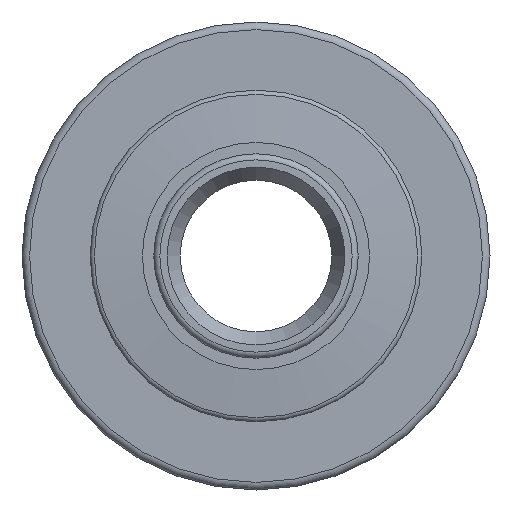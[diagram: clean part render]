
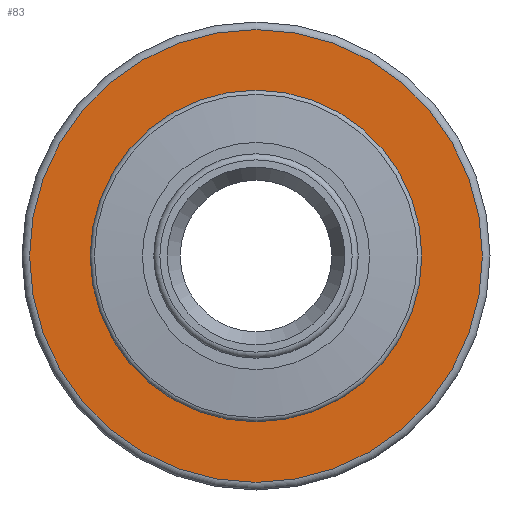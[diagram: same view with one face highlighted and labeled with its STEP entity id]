
A CAD part, front view. The second image highlights one B-rep face of the part: STEP entity #83.
In plain terms, the highlighted planar face has unit normal (0, -1, 0).
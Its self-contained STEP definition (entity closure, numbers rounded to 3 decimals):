
#83=ADVANCED_FACE('',(#481,#483),#485,.F.);
#481=FACE_BOUND('',#482,.T.);
#482=EDGE_LOOP('',(#982));
#483=FACE_BOUND('',#484,.T.);
#484=EDGE_LOOP('',(#983));
#485=PLANE('',#486);
#486=AXIS2_PLACEMENT_3D('',#487,#488,#489);
#487=CARTESIAN_POINT('',(0.,3.,0.));
#488=DIRECTION('',(0.,1.,0.));
#489=DIRECTION('',(-1.,0.,0.));
#982=ORIENTED_EDGE('',*,*,#1148,.F.);
#983=ORIENTED_EDGE('',*,*,#1149,.T.);
#1148=EDGE_CURVE('',#1306,#1306,#1307,.T.);
#1149=EDGE_CURVE('',#1308,#1308,#1309,.T.);
#1306=VERTEX_POINT('',#1694);
#1307=CIRCLE('',#1695,14.95);
#1308=VERTEX_POINT('',#1699);
#1309=CIRCLE('',#1700,8.4);
#1694=CARTESIAN_POINT('',(-14.95,3.,0.));
#1695=AXIS2_PLACEMENT_3D('',#1696,#1697,#1698);
#1696=CARTESIAN_POINT('',(0.,3.,0.));
#1697=DIRECTION('',(0.,1.,0.));
#1698=DIRECTION('',(-1.,0.,0.));
#1699=CARTESIAN_POINT('',(-8.4,3.,0.));
#1700=AXIS2_PLACEMENT_3D('',#1701,#1702,#1703);
#1701=CARTESIAN_POINT('',(0.,3.,0.));
#1702=DIRECTION('',(0.,1.,0.));
#1703=DIRECTION('',(-1.,0.,0.));
